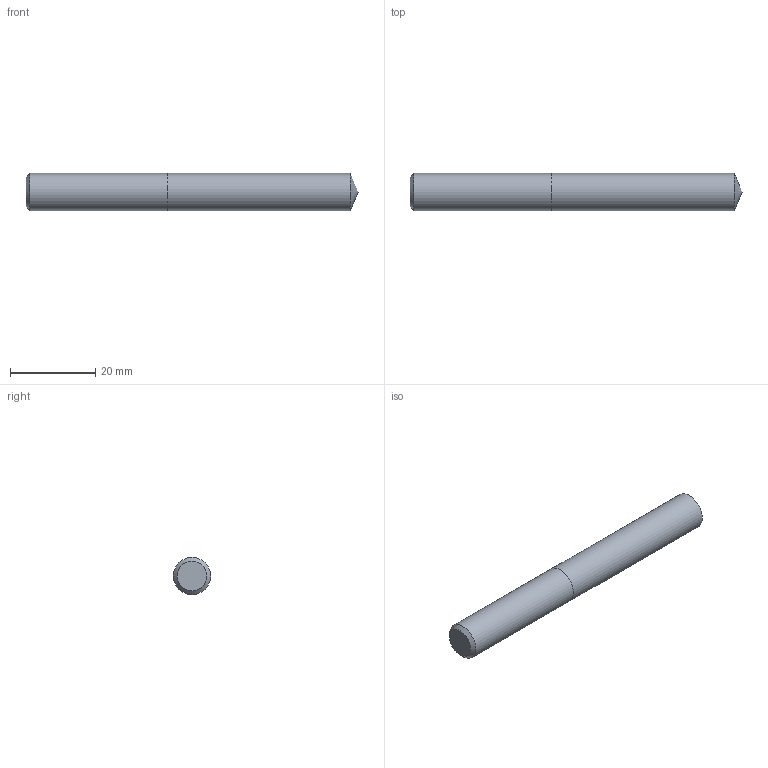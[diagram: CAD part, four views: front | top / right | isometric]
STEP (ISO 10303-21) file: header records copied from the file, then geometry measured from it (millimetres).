
FILE_DESCRIPTION (( 'STEP AP214' ), '1' );
FILE_NAME ('03-2421.STEP', '2022-06-03T07:33:04', ( 'USER' ), ( '' ), 'SwSTEP 2.0', 'SolidWorks 2018', '' );
FILE_SCHEMA (( 'AUTOMOTIVE_DESIGN' ));
Length unit declared in the file: inch
Products named in the file (1): 03-2421
Bounding box: 78.01 x 8.73 x 8.73 mm (x, y, z)
Volume: 4588.8 mm3; surface area: 2319.6 mm2
Topology: 2 solids, 2 shells, 7 faces, 11 edges, 7 vertices
Faces by surface type: plane 3, cylinder 2, cone 2
Full cylindrical faces by diameter (mm): 8.731 x2
Entity records: 214 total; most frequent: DIRECTION 26, CARTESIAN_POINT 18, AXIS2_PLACEMENT_3D 13, ORIENTED_EDGE 10, EDGE_LOOP 10, FACE_OUTER_BOUND 9, DIMENSIONAL_EXPONENTS 7, ADVANCED_FACE 7
